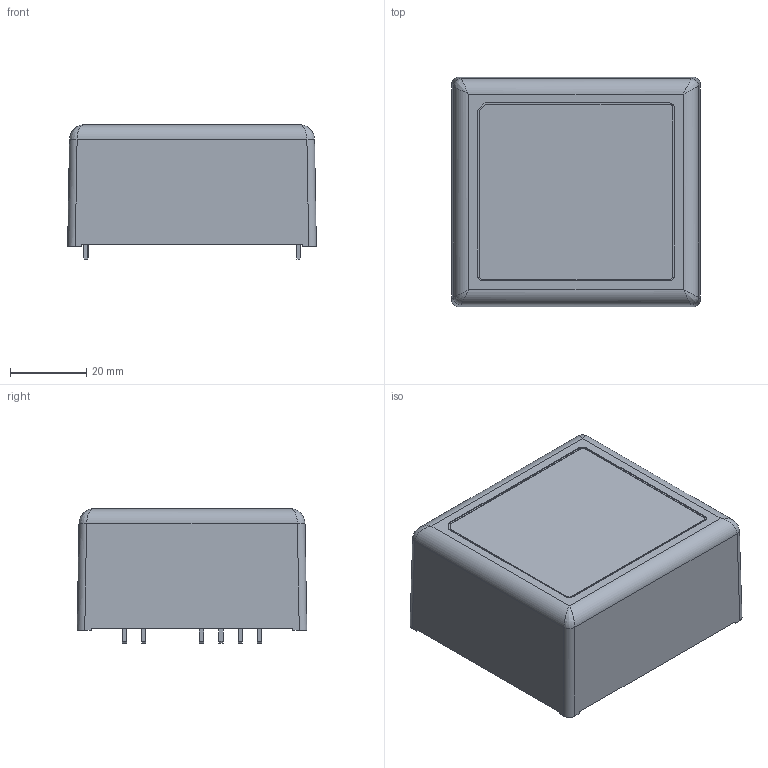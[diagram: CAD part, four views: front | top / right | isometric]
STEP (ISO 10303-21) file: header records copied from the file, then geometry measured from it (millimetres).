
FILE_DESCRIPTION (( 'STEP AP214' ), '1' );
FILE_NAME ('1213100002.STEP', '2026-06-12T11:10:03', ( '' ), ( '' ), 'SwSTEP 2.0', 'SolidWorks 2022', '' );
FILE_SCHEMA (( 'AUTOMOTIVE_DESIGN' ));
Length unit declared in the file: millimetre
Products named in the file (11): 2251400002_2251400002; 2251400004; 4255100004; 4104100016; 2251400003; 2442200003; 4101000149; 2442200004; 1213100002; 4101000148; 200074
Assembly tree (9 placements, depth 5):
  4101000149
  1213100002
    2251400004
      2251400003
        4255100004
        2251400002_2251400002
          2442200003
        2442200004
      200074
        4101000148
    4104100016
Bounding box: 65.4 x 60.4 x 35.44 mm (x, y, z)
Volume: 87565.3 mm3; surface area: 72357.3 mm2
Topology: 3 solids, 18 shells, 1043 faces, 3108 edges, 2048 vertices
Faces by surface type: plane 485, cylinder 343, bspline 116, torus 56, cone 43
Entity records: 43836 total; most frequent: CARTESIAN_POINT 13183, ORIENTED_EDGE 5722, DIRECTION 5105, EDGE_CURVE 3091, VERTEX_POINT 2046, VECTOR 1977, LINE 1977, AXIS2_PLACEMENT_3D 1564
